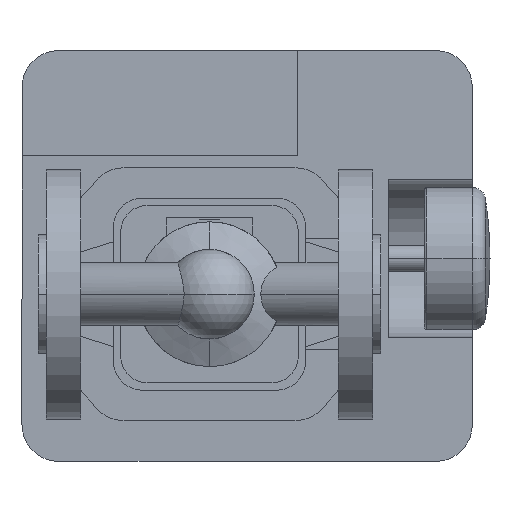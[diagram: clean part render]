
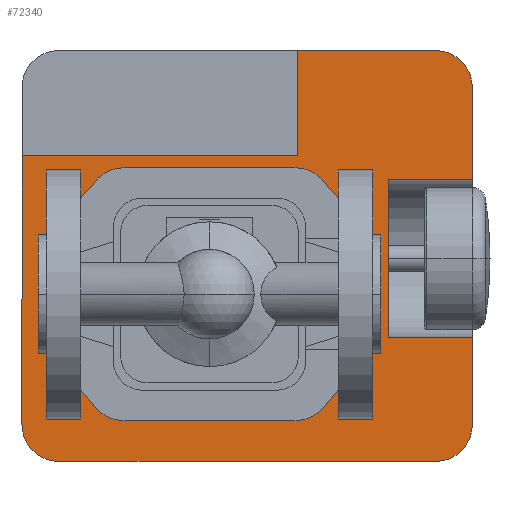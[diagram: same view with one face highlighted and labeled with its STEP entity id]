
A CAD part, front view. The second image highlights one B-rep face of the part: STEP entity #72340.
In plain terms, the highlighted planar face has unit normal (0, -1, 0).
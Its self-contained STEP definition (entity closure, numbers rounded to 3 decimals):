
#58120=CARTESIAN_POINT('',(150.8,490.,92.5));
#58130=VERTEX_POINT('',#58120);
#58160=CARTESIAN_POINT('',(7.8,490.,92.5));
#58170=DIRECTION('',(1.,0.,0.));
#58180=VECTOR('',#58170,1.);
#58190=LINE('',#58160,#58180);
#58200=CARTESIAN_POINT('',(98.3,490.,92.5));
#58210=VERTEX_POINT('',#58200);
#58220=EDGE_CURVE('',#58210,#58130,#58190,.T.);
#58530=CARTESIAN_POINT('',(-6.2,490.,-49.5));
#58540=DIRECTION('',(0.,0.,1.));
#58550=VECTOR('',#58540,1.);
#58560=LINE('',#58530,#58550);
#58570=CARTESIAN_POINT('',(-6.2,490.,-49.5));
#58580=VERTEX_POINT('',#58570);
#58590=CARTESIAN_POINT('',(-6.2,490.,52.5));
#58600=VERTEX_POINT('',#58590);
#58610=EDGE_CURVE('',#58580,#58600,#58560,.T.);
#59510=CARTESIAN_POINT('',(164.8,490.,78.5));
#59520=VERTEX_POINT('',#59510);
#59570=CARTESIAN_POINT('',(150.8,490.,78.5));
#59580=DIRECTION('',(0.,1.,0.));
#59590=DIRECTION('',(0.,0.,1.));
#59600=AXIS2_PLACEMENT_3D('',#59570,#59580,#59590);
#59610=CIRCLE('',#59600,14.);
#59620=EDGE_CURVE('',#58130,#59520,#59610,.T.);
#59930=CARTESIAN_POINT('',(7.8,490.,-63.5));
#59940=VERTEX_POINT('',#59930);
#59970=CARTESIAN_POINT('',(150.8,490.,-63.5));
#59980=DIRECTION('',(-1.,0.,0.));
#59990=VECTOR('',#59980,1.);
#60000=LINE('',#59970,#59990);
#60010=CARTESIAN_POINT('',(150.8,490.,-63.5));
#60020=VERTEX_POINT('',#60010);
#60030=EDGE_CURVE('',#60020,#59940,#60000,.T.);
#60720=CARTESIAN_POINT('',(164.8,490.,-16.5));
#60730=VERTEX_POINT('',#60720);
#60760=CARTESIAN_POINT('',(114.9,490.,-16.5));
#60770=DIRECTION('',(-1.,0.,0.));
#60780=VECTOR('',#60770,1.);
#60790=LINE('',#60760,#60780);
#60800=CARTESIAN_POINT('',(132.8,490.,-16.5));
#60810=VERTEX_POINT('',#60800);
#60820=EDGE_CURVE('',#60730,#60810,#60790,.T.);
#61450=CARTESIAN_POINT('',(114.9,490.,43.5));
#61460=DIRECTION('',(1.,0.,0.));
#61470=VECTOR('',#61460,1.);
#61480=LINE('',#61450,#61470);
#61490=CARTESIAN_POINT('',(132.8,490.,43.5));
#61500=VERTEX_POINT('',#61490);
#61510=CARTESIAN_POINT('',(164.8,490.,43.5));
#61520=VERTEX_POINT('',#61510);
#61530=EDGE_CURVE('',#61500,#61520,#61480,.T.);
#61880=CARTESIAN_POINT('',(132.8,490.,0.));
#61890=DIRECTION('',(0.,0.,1.));
#61900=VECTOR('',#61890,1.);
#61910=LINE('',#61880,#61900);
#61920=EDGE_CURVE('',#60810,#61500,#61910,.T.);
#62120=CARTESIAN_POINT('',(164.8,490.,78.5));
#62130=DIRECTION('',(0.,0.,-1.));
#62140=VECTOR('',#62130,1.);
#62150=LINE('',#62120,#62140);
#62160=EDGE_CURVE('',#59520,#61520,#62150,.T.);
#62310=CARTESIAN_POINT('',(164.8,490.,-49.5));
#62320=VERTEX_POINT('',#62310);
#62350=CARTESIAN_POINT('',(164.8,490.,78.5));
#62360=DIRECTION('',(0.,0.,-1.));
#62370=VECTOR('',#62360,1.);
#62380=LINE('',#62350,#62370);
#62390=EDGE_CURVE('',#60730,#62320,#62380,.T.);
#62990=CARTESIAN_POINT('',(124.96,490.,11.216));
#63000=VERTEX_POINT('',#62990);
#63030=CARTESIAN_POINT('',(115.,490.,0.));
#63040=DIRECTION('',(0.,1.,0.));
#63050=DIRECTION('',(0.,0.,1.));
#63060=AXIS2_PLACEMENT_3D('',#63030,#63040,#63050);
#63070=CIRCLE('',#63060,15.);
#63080=CARTESIAN_POINT('',(124.96,490.,-11.216));
#63090=VERTEX_POINT('',#63080);
#63100=EDGE_CURVE('',#63000,#63090,#63070,.T.);
#66240=CARTESIAN_POINT('',(107.116,490.,44.128));
#66250=VERTEX_POINT('',#66240);
#66280=CARTESIAN_POINT('',(65.,490.,0.));
#66290=DIRECTION('',(0.,1.,0.));
#66300=DIRECTION('',(0.69,0.,0.723));
#66310=AXIS2_PLACEMENT_3D('',#66280,#66290,#66300);
#66320=CIRCLE('',#66310,61.);
#66330=EDGE_CURVE('',#66250,#63000,#66320,.T.);
#66790=CARTESIAN_POINT('',(5.04,490.,-11.216));
#66800=VERTEX_POINT('',#66790);
#66830=CARTESIAN_POINT('',(15.,490.,0.));
#66840=DIRECTION('',(0.,1.,0.));
#66850=DIRECTION('',(0.,0.,-1.));
#66860=AXIS2_PLACEMENT_3D('',#66830,#66840,#66850);
#66870=CIRCLE('',#66860,15.);
#66880=CARTESIAN_POINT('',(5.04,490.,11.216));
#66890=VERTEX_POINT('',#66880);
#66900=EDGE_CURVE('',#66800,#66890,#66870,.T.);
#68240=CARTESIAN_POINT('',(22.884,490.,-44.128));
#68250=VERTEX_POINT('',#68240);
#68280=CARTESIAN_POINT('',(65.,490.,0.));
#68290=DIRECTION('',(0.,1.,0.));
#68300=DIRECTION('',(-0.69,0.,-0.723));
#68310=AXIS2_PLACEMENT_3D('',#68280,#68290,#68300);
#68320=CIRCLE('',#68310,61.);
#68330=EDGE_CURVE('',#68250,#66800,#68320,.T.);
#71180=CARTESIAN_POINT('',(65.,490.,0.));
#71190=DIRECTION('',(0.,1.,0.));
#71200=DIRECTION('',(0.,0.,1.));
#71210=AXIS2_PLACEMENT_3D('',#71180,#71190,#71200);
#71220=PLANE('',#71210);
#71230=ORIENTED_EDGE('',*,*,#61920,.T.);
#71240=ORIENTED_EDGE('',*,*,#60820,.T.);
#71250=ORIENTED_EDGE('',*,*,#62390,.F.);
#71260=CARTESIAN_POINT('',(150.8,490.,-49.5));
#71270=DIRECTION('',(0.,1.,0.));
#71280=DIRECTION('',(1.,0.,0.));
#71290=AXIS2_PLACEMENT_3D('',#71260,#71270,#71280);
#71300=CIRCLE('',#71290,14.);
#71310=EDGE_CURVE('',#62320,#60020,#71300,.T.);
#71320=ORIENTED_EDGE('',*,*,#71310,.F.);
#71330=ORIENTED_EDGE('',*,*,#60030,.F.);
#71340=CARTESIAN_POINT('',(7.8,490.,-49.5));
#71350=DIRECTION('',(0.,1.,0.));
#71360=DIRECTION('',(0.,0.,-1.));
#71370=AXIS2_PLACEMENT_3D('',#71340,#71350,#71360);
#71380=CIRCLE('',#71370,14.);
#71390=EDGE_CURVE('',#59940,#58580,#71380,.T.);
#71400=ORIENTED_EDGE('',*,*,#71390,.F.);
#71410=ORIENTED_EDGE('',*,*,#58610,.F.);
#71420=CARTESIAN_POINT('',(28.9,490.,52.5));
#71430=DIRECTION('',(-1.,0.,0.));
#71440=VECTOR('',#71430,1.);
#71450=LINE('',#71420,#71440);
#71460=CARTESIAN_POINT('',(98.3,490.,52.5));
#71470=VERTEX_POINT('',#71460);
#71480=EDGE_CURVE('',#71470,#58600,#71450,.T.);
#71490=ORIENTED_EDGE('',*,*,#71480,.T.);
#71500=CARTESIAN_POINT('',(98.3,490.,26.25));
#71510=DIRECTION('',(0.,0.,-1.));
#71520=VECTOR('',#71510,1.);
#71530=LINE('',#71500,#71520);
#71540=EDGE_CURVE('',#58210,#71470,#71530,.T.);
#71550=ORIENTED_EDGE('',*,*,#71540,.T.);
#71560=ORIENTED_EDGE('',*,*,#58220,.F.);
#71570=ORIENTED_EDGE('',*,*,#59620,.F.);
#71580=ORIENTED_EDGE('',*,*,#62160,.F.);
#71590=ORIENTED_EDGE('',*,*,#61530,.T.);
#71600=EDGE_LOOP('',(#71590,#71580,#71570,#71560,#71550,#71490,#71410,
#71400,#71330,#71320,#71250,#71240,#71230));
#71610=FACE_OUTER_BOUND('',#71600,.T.);
#71620=ORIENTED_EDGE('',*,*,#66330,.T.);
#71630=CARTESIAN_POINT('',(97.45,490.,34.));
#71640=DIRECTION('',(0.,1.,0.));
#71650=DIRECTION('',(0.,0.,1.));
#71660=AXIS2_PLACEMENT_3D('',#71630,#71640,#71650);
#71670=CIRCLE('',#71660,14.);
#71680=CARTESIAN_POINT('',(97.45,490.,48.));
#71690=VERTEX_POINT('',#71680);
#71700=EDGE_CURVE('',#71690,#66250,#71670,.T.);
#71710=ORIENTED_EDGE('',*,*,#71700,.T.);
#71720=CARTESIAN_POINT('',(48.775,490.,48.));
#71730=DIRECTION('',(1.,0.,0.));
#71740=VECTOR('',#71730,1.);
#71750=LINE('',#71720,#71740);
#71760=CARTESIAN_POINT('',(32.55,490.,48.));
#71770=VERTEX_POINT('',#71760);
#71780=EDGE_CURVE('',#71770,#71690,#71750,.T.);
#71790=ORIENTED_EDGE('',*,*,#71780,.T.);
#71800=CARTESIAN_POINT('',(32.55,490.,34.));
#71810=DIRECTION('',(0.,1.,0.));
#71820=DIRECTION('',(-0.69,0.,0.723));
#71830=AXIS2_PLACEMENT_3D('',#71800,#71810,#71820);
#71840=CIRCLE('',#71830,14.);
#71850=CARTESIAN_POINT('',(22.884,490.,44.128));
#71860=VERTEX_POINT('',#71850);
#71870=EDGE_CURVE('',#71860,#71770,#71840,.T.);
#71880=ORIENTED_EDGE('',*,*,#71870,.T.);
#71890=CARTESIAN_POINT('',(65.,490.,0.));
#71900=DIRECTION('',(0.,1.,0.));
#71910=DIRECTION('',(-0.69,0.,-0.723));
#71920=AXIS2_PLACEMENT_3D('',#71890,#71900,#71910);
#71930=CIRCLE('',#71920,61.);
#71940=EDGE_CURVE('',#66890,#71860,#71930,.T.);
#71950=ORIENTED_EDGE('',*,*,#71940,.T.);
#71960=ORIENTED_EDGE('',*,*,#66900,.T.);
#71970=ORIENTED_EDGE('',*,*,#68330,.T.);
#71980=CARTESIAN_POINT('',(32.55,490.,-34.));
#71990=DIRECTION('',(0.,1.,0.));
#72000=DIRECTION('',(0.,0.,-1.));
#72010=AXIS2_PLACEMENT_3D('',#71980,#71990,#72000);
#72020=CIRCLE('',#72010,14.);
#72030=CARTESIAN_POINT('',(32.55,490.,-48.));
#72040=VERTEX_POINT('',#72030);
#72050=EDGE_CURVE('',#72040,#68250,#72020,.T.);
#72060=ORIENTED_EDGE('',*,*,#72050,.T.);
#72070=CARTESIAN_POINT('',(81.225,490.,-48.));
#72080=DIRECTION('',(-1.,0.,0.));
#72090=VECTOR('',#72080,1.);
#72100=LINE('',#72070,#72090);
#72110=CARTESIAN_POINT('',(97.45,490.,-48.));
#72120=VERTEX_POINT('',#72110);
#72130=EDGE_CURVE('',#72120,#72040,#72100,.T.);
#72140=ORIENTED_EDGE('',*,*,#72130,.T.);
#72150=CARTESIAN_POINT('',(97.45,490.,-34.));
#72160=DIRECTION('',(0.,1.,0.));
#72170=DIRECTION('',(0.69,0.,-0.723));
#72180=AXIS2_PLACEMENT_3D('',#72150,#72160,#72170);
#72190=CIRCLE('',#72180,14.);
#72200=CARTESIAN_POINT('',(107.116,490.,-44.128));
#72210=VERTEX_POINT('',#72200);
#72220=EDGE_CURVE('',#72210,#72120,#72190,.T.);
#72230=ORIENTED_EDGE('',*,*,#72220,.T.);
#72240=CARTESIAN_POINT('',(65.,490.,0.));
#72250=DIRECTION('',(0.,1.,0.));
#72260=DIRECTION('',(0.69,0.,0.723));
#72270=AXIS2_PLACEMENT_3D('',#72240,#72250,#72260);
#72280=CIRCLE('',#72270,61.);
#72290=EDGE_CURVE('',#63090,#72210,#72280,.T.);
#72300=ORIENTED_EDGE('',*,*,#72290,.T.);
#72310=ORIENTED_EDGE('',*,*,#63100,.T.);
#72320=EDGE_LOOP('',(#72310,#72300,#72230,#72140,#72060,#71970,#71960,
#71950,#71880,#71790,#71710,#71620));
#72330=FACE_BOUND('',#72320,.T.);
#72340=ADVANCED_FACE('',(#71610,#72330),#71220,.F.);
